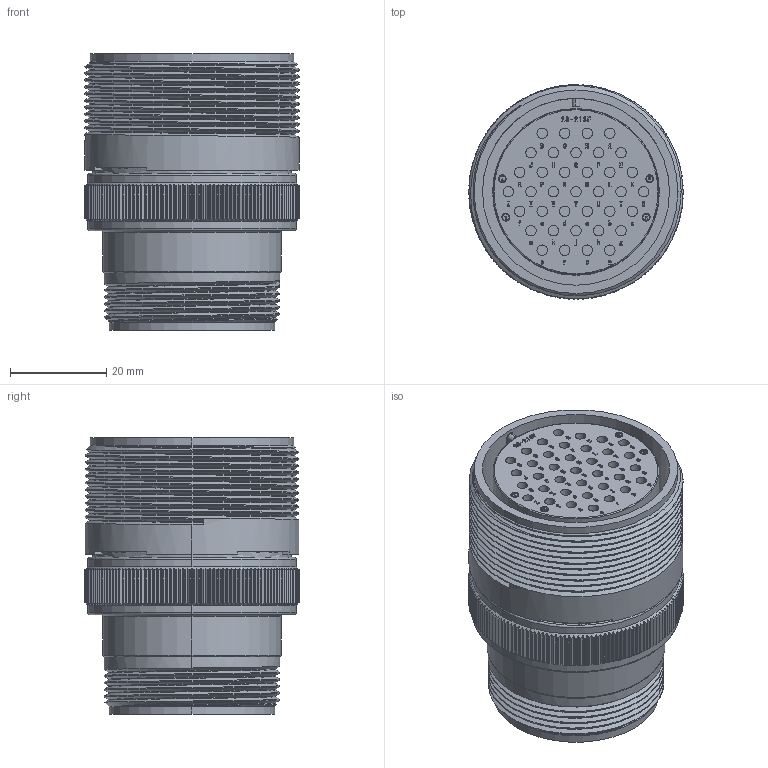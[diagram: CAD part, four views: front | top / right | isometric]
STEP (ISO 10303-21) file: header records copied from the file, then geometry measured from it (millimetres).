
FILE_DESCRIPTION (( 'STEP AP203' ), '1' );
FILE_NAME ('DMS3101A28-21S.STEP', '2017-09-05T08:39:51', ( '' ), ( '' ), 'SwSTEP 2.0', 'SolidWorks 2015', '' );
FILE_SCHEMA (( 'CONFIG_CONTROL_DESIGN' ));
Products named in the file (1): DMS3101A28-21S
Bounding box: 44.49 x 44.49 x 57.36 mm (x, y, z)
Volume: 49810.7 mm3; surface area: 28693.2 mm2
Topology: 1 solids, 1 shells, 4166 faces, 11600 edges, 7718 vertices
Faces by surface type: plane 1803, cylinder 1442, bspline 812, torus 93, cone 16
Entity records: 169496 total; most frequent: CARTESIAN_POINT 71660, ORIENTED_EDGE 23200, DIRECTION 15749, EDGE_CURVE 11600, VERTEX_POINT 7718, VECTOR 5959, LINE 5959, AXIS2_PLACEMENT_3D 4895
